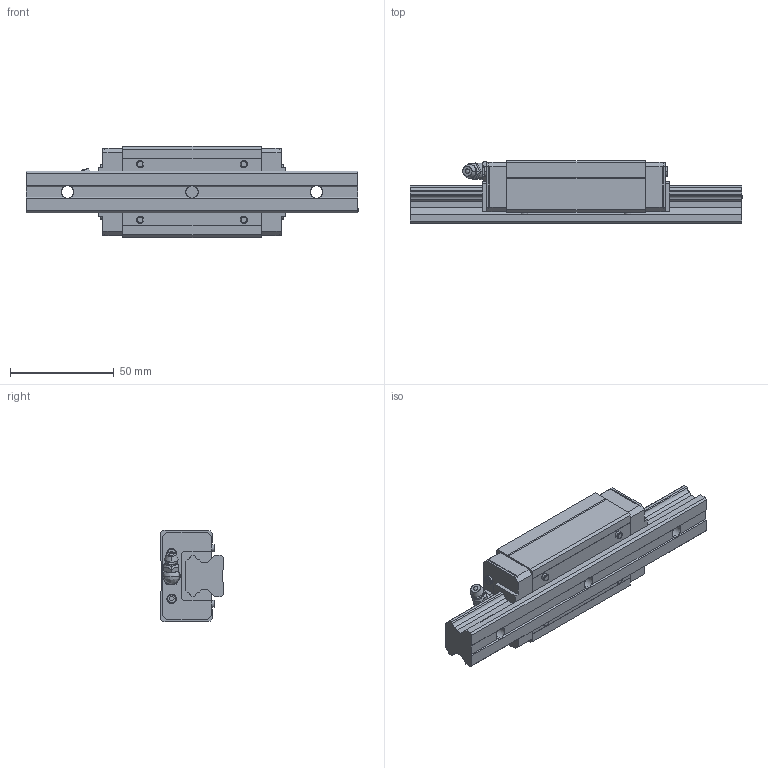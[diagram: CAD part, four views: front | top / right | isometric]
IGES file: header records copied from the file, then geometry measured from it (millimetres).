
Start section: SolidWorks IGES file using analytic representation for surfaces
Global section: file name: D:\Qsync\EOS Design B.V\Projecten\LM Systems\Models HSV\FINISHED\HSR20LRSSC.IGS; native system: SolidWorks 2016; preprocessor: SolidWorks 2016; author: EOS; date: 160329.132355; units: millimetre
Bounding box: 160 x 30 x 44 mm (x, y, z)
Surface area: 31840.5 mm2 (no closed solid volume)
Topology: 0 solids, 0 shells, 300 faces, 2916 edges, 2898 vertices
Faces by surface type: bspline 212, revolution 88
